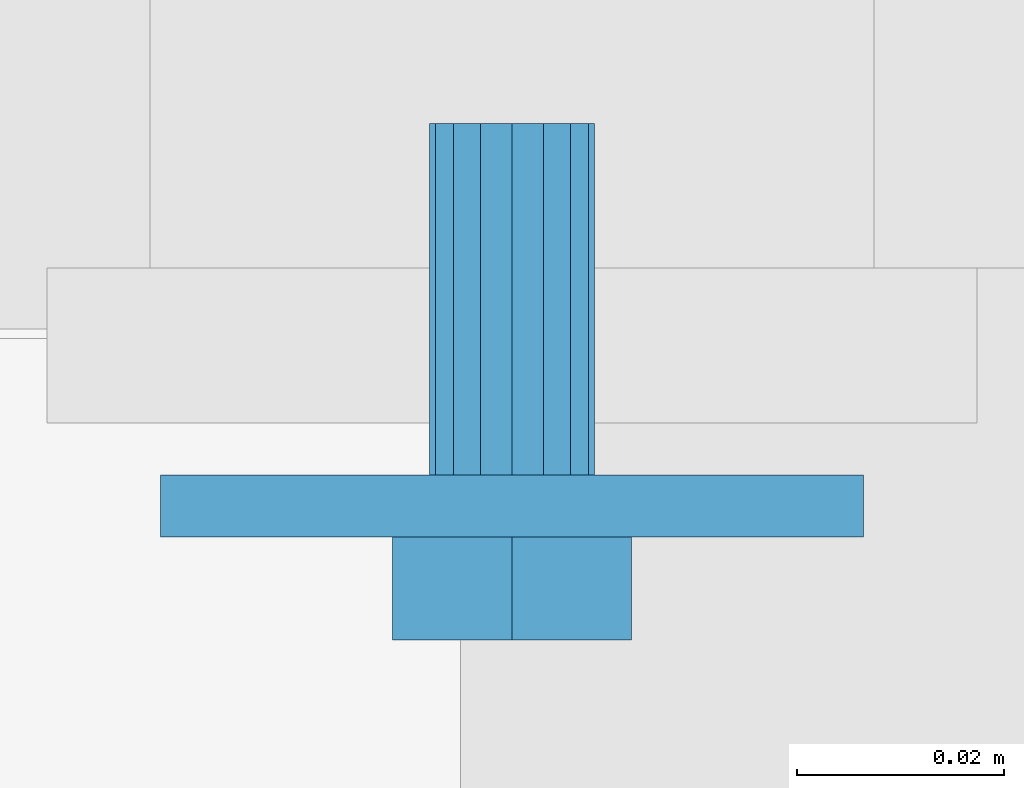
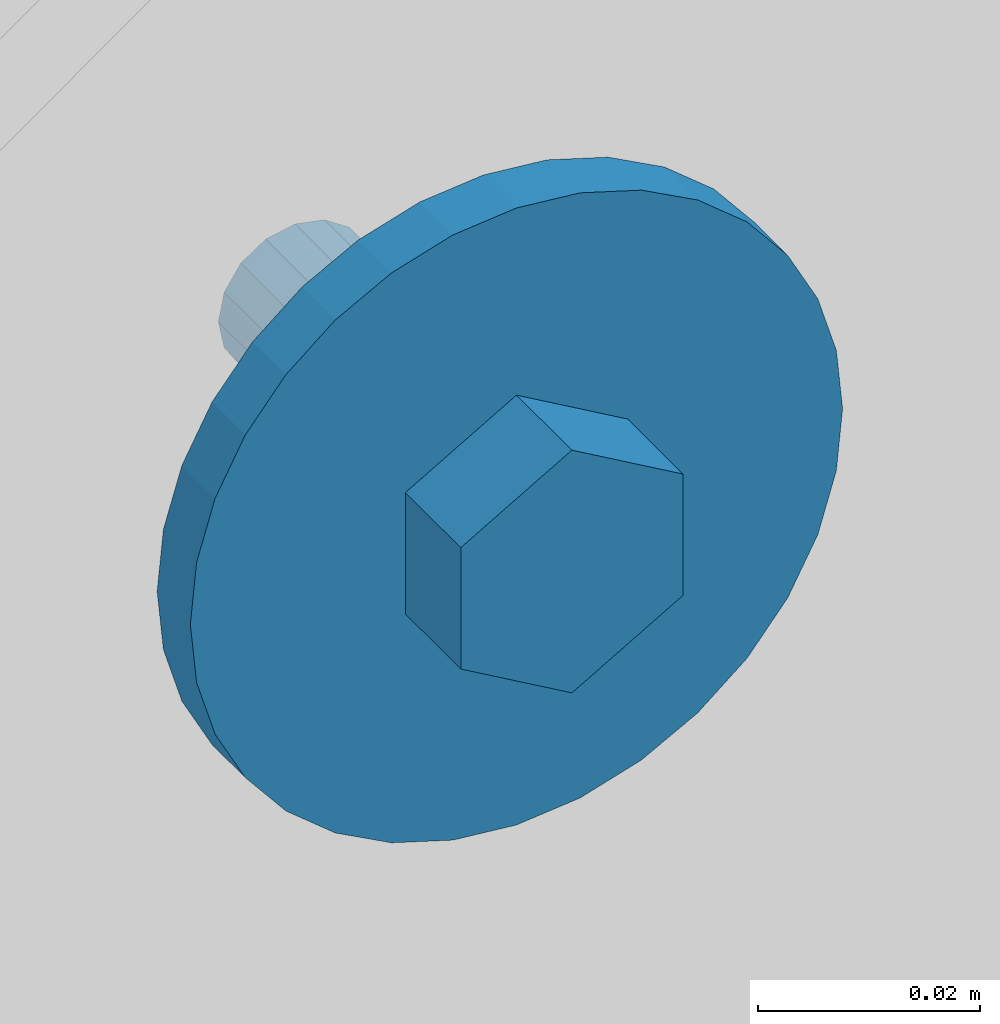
# One storey, part 31 of 116: 1 mechanical fastener.
"""IFC2X3 building model written with IfcOpenShell, lengths in millimetres."""

import ifcopenshell
import ifcopenshell.guid

model = None  # the IFC model being written
_history = None  # IfcOwnerHistory: only IFC2X3 demands one
_inside = {}  # id of a spatial element -> (the spatial element, [elements in it])
_under = {}  # id of a project, library or spatial element -> (it, [spatial elements below it])
_declared = {}  # id of a project -> (the project, [libraries it declares])
_typed = {}  # id of a type object -> (the type object, [elements of that type])
_made_of = {}  # id of a material, layer set ... -> (it, [elements and type objects made of it])


def new_model(schema):
    """Start an empty IFC model of exactly this schema.

    Asked for "IFC4X3", IfcOpenShell would pick the latest addendum, in which some entities
    have other attributes; the version numbers below select the first issue.
    IFC2X3 requires an IfcOwnerHistory on every rooted entity: one is made here for all.
    """
    global model, _history
    if schema == "IFC4X3":
        model = ifcopenshell.file(schema_version=(4, 3, 0, 0))
    else:
        model = ifcopenshell.file(schema=schema)
    _inside.clear()
    _under.clear()
    _declared.clear()
    _typed.clear()
    _made_of.clear()
    _history = None
    if model.schema == "IFC2X3":
        org = make("IfcOrganization", Name="unknown")
        user = make(
            "IfcPersonAndOrganization",
            ThePerson=make("IfcPerson", FamilyName="unknown"),
            TheOrganization=org,
        )
        app = make(
            "IfcApplication",
            ApplicationDeveloper=org,
            Version="unknown",
            ApplicationFullName="unknown",
            ApplicationIdentifier="unknown",
        )
        _history = make(
            "IfcOwnerHistory",
            OwningUser=user,
            OwningApplication=app,
            ChangeAction="ADDED",
            CreationDate=0,
        )
    return model


def make(cls, **values):
    """One entity of the class cls with the attributes given. An attribute that is None is left unset."""
    return model.create_entity(
        cls, **{name: value for name, value in values.items() if value is not None}
    )


def entity(cls, *values):
    """Any entity or typed value of the class cls, its attributes in the order of the schema. None: left unset."""
    e = model.create_entity(cls)
    for i, value in enumerate(values):
        if value is not None:
            e[i] = value
    return e


def rooted(cls, **values):
    """An entity with a GlobalId (a new one), such as an element, a storey or a relation."""
    return make(cls, GlobalId=ifcopenshell.guid.new(), OwnerHistory=_history, **values)


def si_unit(unit_type, name, prefix=None):
    """IfcSIUnit, for example si_unit("LENGTHUNIT", "METRE", prefix="MILLI")."""
    return make("IfcSIUnit", UnitType=unit_type, Prefix=prefix, Name=name)


def converted_unit(unit_type, name, factor, base, dimensions=None, offset=None):
    """IfcConversionBasedUnit, such as the inch: factor (a typed value) times the base unit."""
    return make(
        "IfcConversionBasedUnit"
        if offset is None
        else "IfcConversionBasedUnitWithOffset",
        ConversionOffset=offset,
        Dimensions=None
        if dimensions is None
        else entity("IfcDimensionalExponents", *dimensions),
        UnitType=unit_type,
        Name=name,
        ConversionFactor=make(
            "IfcMeasureWithUnit", ValueComponent=factor, UnitComponent=base
        ),
    )


def assignment(units):
    """IfcUnitAssignment: the units of a project."""
    return None if units is None else make("IfcUnitAssignment", Units=units)


def point(xyz):
    """IfcCartesianPoint."""
    return None if xyz is None else make("IfcCartesianPoint", Coordinates=xyz)


def direction(xyz):
    """IfcDirection."""
    return None if xyz is None else make("IfcDirection", DirectionRatios=xyz)


def frame(location, z_axis=None, x_axis=None):
    """IfcAxis2Placement3D, a coordinate frame: its origin and axes. An axis left out is left unset."""
    return make(
        "IfcAxis2Placement3D",
        Location=point(location),
        Axis=direction(z_axis),
        RefDirection=direction(x_axis),
    )


def origin_with_axes():
    """The frame at (0, 0, 0) with the z axis (0, 0, 1) and the x axis (1, 0, 0) written out."""
    return frame((0.0, 0.0, 0.0), z_axis=(0.0, 0.0, 1.0), x_axis=(1.0, 0.0, 0.0))


def place(relative_to, where):
    """IfcLocalPlacement: puts the frame where relative to a parent placement (None: the world)."""
    return make(
        "IfcLocalPlacement", PlacementRelTo=relative_to, RelativePlacement=where
    )


def context(
    kind, dimensions, precision=None, world=None, true_north=None, identifier=None
):
    """IfcGeometricRepresentationContext, for example the 3D "Model" context."""
    return make(
        "IfcGeometricRepresentationContext",
        ContextIdentifier=identifier,
        ContextType=kind,
        CoordinateSpaceDimension=dimensions,
        Precision=precision,
        WorldCoordinateSystem=world,
        TrueNorth=true_north,
    )


def project(units=None, contexts=None):
    """IfcProject with its units and contexts."""
    return rooted(
        "IfcProject",
        Name="project",
        RepresentationContexts=contexts,
        UnitsInContext=assignment(units),
    )


def spatial(cls, under=None, at=None, **own):
    """A site, building, storey or space (cls), placed at a placement, below another one or the project."""
    s = rooted(cls, ObjectPlacement=at, **own)
    if under is not None:
        _under.setdefault(under.id(), (under, []))[1].append(s)
    return s


def faces_of(points, faces, orient=None, outer=None):
    """IfcFace entities. A face is a list of loops; a loop is a list of indices into points, from 0.

    orient and outer hold one flag for each loop. By default every Orientation is true, the
    first loop of a face is its IfcFaceOuterBound and the others are IfcFaceBound.
    """
    made = []
    for i, loops in enumerate(faces):
        bounds = []
        for j, loop in enumerate(loops):
            is_outer = j == 0 if outer is None else outer[i][j]
            bounds.append(
                make(
                    "IfcFaceOuterBound" if is_outer else "IfcFaceBound",
                    Bound=make("IfcPolyLoop", Polygon=[points[k] for k in loop]),
                    Orientation=True if orient is None else orient[i][j],
                )
            )
        made.append(make("IfcFace", Bounds=bounds))
    return made


def faceted_brep(points, faces, orient=None, outer=None, voids=None):
    """IfcFacetedBrep: a solid bounded by flat faces; with voids (closed shells), ...WithVoids."""
    shared = [point(p) for p in points]
    hull = make("IfcClosedShell", CfsFaces=faces_of(shared, faces, orient, outer))
    if voids is None:
        return make("IfcFacetedBrep", Outer=hull)
    return make(
        "IfcFacetedBrepWithVoids",
        Outer=hull,
        Voids=[
            make(cls, CfsFaces=faces_of(shared, fs, o, b)) for cls, fs, o, b in voids
        ],
    )


def shape(context_of_items, identifier, shape_type, items):
    """IfcShapeRepresentation: the items that make up one representation, for example the "Body"."""
    return make(
        "IfcShapeRepresentation",
        ContextOfItems=context_of_items,
        RepresentationIdentifier=identifier,
        RepresentationType=shape_type,
        Items=items,
    )


def made_of(thing, what):
    """Note that an element or type object is made of a material, layer set ...; save() writes the relation."""
    if what is not None:
        _made_of.setdefault(what.id(), (what, []))[1].append(thing)
    return thing


def element(
    cls,
    number,
    at=None,
    inside=None,
    cuts=None,
    type_object=None,
    material=None,
    context=None,
    identifier="Body",
    shape_type=None,
    held_by="IfcProductDefinitionShape",
    body=None,
    shapes=None,
    **own,
):
    """One element of the class cls, such as IfcWall. Its Tag is "e" and its number.

    at: its placement. inside: the storey or other place that contains it. cuts: it is an
    opening in that element (IfcRelVoidsElement). A single representation is given by context,
    identifier, shape_type and body (its items); several are given by shapes. held_by: the class
    of the entity that holds the representations. save() writes the other relations.
    """
    e = rooted(cls, Tag="e%d" % number, ObjectPlacement=at, **own)
    if body is not None:
        shapes = [shape(context, identifier, shape_type, body)]
    if shapes is not None:
        e.Representation = make(held_by, Representations=shapes)
    if inside is not None:
        _inside.setdefault(inside.id(), (inside, []))[1].append(e)
    if cuts is not None:
        rooted(
            "IfcRelVoidsElement", RelatingBuildingElement=cuts, RelatedOpeningElement=e
        )
    if type_object is not None:
        _typed.setdefault(type_object.id(), (type_object, []))[1].append(e)
    return made_of(e, material)


def aggregate(whole, parts):
    """IfcRelAggregates: a whole, such as a stair, and the parts it consists of."""
    return rooted("IfcRelAggregates", RelatingObject=whole, RelatedObjects=parts)


def save(model, path):
    """Write the relations noted so far, then the file.

    IfcRelAggregates (storeys below a building ...), IfcRelContainedInSpatialStructure (elements
    in a storey), IfcRelDefinesByType, IfcRelAssociatesMaterial and IfcRelDeclares: one each for
    every whole, place, type object, material and project.
    """
    for whole, parts in _under.values():
        aggregate(whole, parts)
    for where, things in _inside.values():
        rooted(
            "IfcRelContainedInSpatialStructure",
            RelatedElements=things,
            RelatingStructure=where,
        )
    for kind, things in _typed.values():
        rooted("IfcRelDefinesByType", RelatedObjects=things, RelatingType=kind)
    for what, things in _made_of.values():
        rooted("IfcRelAssociatesMaterial", RelatedObjects=things, RelatingMaterial=what)
    for by, libraries in _declared.values():
        rooted("IfcRelDeclares", RelatingContext=by, RelatedDefinitions=libraries)
    model.write(path)


model = new_model("IFC2X3")

# Units and contexts
model_context = context("Model", 3, precision=1e-09, world=origin_with_axes())
ifc_project = project(units=[si_unit("LENGTHUNIT", "METRE", prefix="MILLI"), si_unit("AREAUNIT", "SQUARE_METRE"), si_unit("VOLUMEUNIT", "CUBIC_METRE"), converted_unit("PLANEANGLEUNIT", "DEGREE", entity("IfcPlaneAngleMeasure", 0.01745329), si_unit("PLANEANGLEUNIT", "RADIAN"), dimensions=[0, 0, 0, 0, 0, 0, 0])], contexts=[model_context])

# Site, building, storey
site_placement = place(None, origin_with_axes())
site = spatial("IfcSite", under=ifc_project, at=site_placement, Name="Site", CompositionType="ELEMENT")
building_placement = place(site_placement, origin_with_axes())
building = spatial("IfcBuilding", under=site, at=building_placement, Name="Struktur 1", CompositionType="ELEMENT")
storey_placement = place(building_placement, origin_with_axes())
storey = spatial("IfcBuildingStorey", under=building, at=storey_placement, Name="Default Storey", CompositionType="ELEMENT", Elevation=0.0)

# Mechanical fastener
mechanical_fastener_placement = place(None, origin_with_axes())
element("IfcMechanicalFastener", 1, at=mechanical_fastener_placement, inside=storey, ObjectType="-", NominalDiameter=16.0, NominalLength=40.0, context=model_context, shape_type="Brep", body=[
    faceted_brep([(58013.049134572, 12011.358883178, -115.0), (58013.049134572, 12017.358883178, -115.0), (58013.702435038, 12017.358883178, -121.633070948), (58013.702435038, 12011.358883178, -121.633070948), (58015.637230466, 12017.358883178, -128.0112367), (58015.637230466, 12011.358883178, -128.0112367), (58018.779167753, 12017.358883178, -133.889387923), (58018.779167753, 12011.358883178, -133.889387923), (58023.007504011, 12017.358883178, -139.04163056), (58023.007504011, 12011.358883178, -139.04163056), (58028.159746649, 12017.358883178, -143.269966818), (58028.159746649, 12011.358883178, -143.269966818), (58034.037897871, 12017.358883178, -146.411904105), (58034.037897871, 12011.358883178, -146.411904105), (58040.416063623, 12017.358883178, -148.346699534), (58040.416063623, 12011.358883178, -148.346699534), (58047.049134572, 12017.358883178, -149.0), (58047.049134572, 12011.358883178, -149.0), (58053.68220552, 12017.358883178, -148.346699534), (58053.68220552, 12011.358883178, -148.346699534), (58060.060371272, 12017.358883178, -146.411904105), (58060.060371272, 12011.358883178, -146.411904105), (58065.938522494, 12017.358883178, -143.269966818), (58065.938522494, 12011.358883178, -143.269966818), (58071.090765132, 12017.358883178, -139.04163056), (58071.090765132, 12011.358883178, -139.04163056), (58075.31910139, 12017.358883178, -133.889387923), (58075.31910139, 12011.358883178, -133.889387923), (58078.461038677, 12017.358883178, -128.0112367), (58078.461038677, 12011.358883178, -128.0112367), (58080.395834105, 12017.358883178, -121.633070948), (58080.395834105, 12011.358883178, -121.633070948), (58081.049134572, 12017.358883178, -115.0), (58081.049134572, 12011.358883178, -115.0), (58080.395834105, 12017.358883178, -108.366929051), (58080.395834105, 12011.358883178, -108.366929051), (58078.461038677, 12017.358883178, -101.9887633), (58078.461038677, 12011.358883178, -101.9887633), (58075.31910139, 12017.358883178, -96.110612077), (58075.31910139, 12011.358883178, -96.110612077), (58071.090765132, 12017.358883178, -90.95836944), (58071.090765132, 12011.358883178, -90.95836944), (58065.938522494, 12017.358883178, -86.730033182), (58065.938522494, 12011.358883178, -86.730033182), (58060.060371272, 12017.358883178, -83.588095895), (58060.060371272, 12011.358883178, -83.588095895), (58053.68220552, 12017.358883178, -81.653300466), (58053.68220552, 12011.358883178, -81.653300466), (58047.049134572, 12017.358883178, -81.0), (58047.049134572, 12011.358883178, -81.0), (58040.416063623, 12017.358883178, -81.653300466), (58040.416063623, 12011.358883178, -81.653300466), (58034.037897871, 12017.358883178, -83.588095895), (58034.037897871, 12011.358883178, -83.588095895), (58028.159746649, 12017.358883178, -86.730033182), (58028.159746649, 12011.358883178, -86.730033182), (58023.007504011, 12017.358883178, -90.95836944), (58023.007504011, 12011.358883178, -90.95836944), (58018.779167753, 12017.358883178, -96.110612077), (58018.779167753, 12011.358883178, -96.110612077), (58015.637230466, 12017.358883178, -101.9887633), (58015.637230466, 12011.358883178, -101.9887633), (58013.702435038, 12017.358883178, -108.366929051), (58013.702435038, 12011.358883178, -108.366929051)], [[[0, 1, 2, 3]], [[3, 2, 4, 5]], [[5, 4, 6, 7]], [[7, 6, 8, 9]], [[9, 8, 10, 11]], [[11, 10, 12, 13]], [[13, 12, 14, 15]], [[15, 14, 16, 17]], [[17, 16, 18, 19]], [[19, 18, 20, 21]], [[21, 20, 22, 23]], [[23, 22, 24, 25]], [[25, 24, 26, 27]], [[27, 26, 28, 29]], [[29, 28, 30, 31]], [[31, 30, 32, 33]], [[33, 32, 34, 35]], [[35, 34, 36, 37]], [[37, 36, 38, 39]], [[39, 38, 40, 41]], [[41, 40, 42, 43]], [[43, 42, 44, 45]], [[45, 44, 46, 47]], [[47, 46, 48, 49]], [[49, 48, 50, 51]], [[51, 50, 52, 53]], [[53, 52, 54, 55]], [[55, 54, 56, 57]], [[57, 56, 58, 59]], [[59, 58, 60, 61]], [[61, 60, 62, 63]], [[63, 62, 1, 0]], [[0, 3, 5, 7, 9, 11, 13, 15, 17, 19, 21, 23, 25, 27, 29, 31, 33, 35, 37, 39, 41, 43, 45, 47, 49, 51, 53, 55, 57, 59, 61, 63]], [[1, 62, 60, 58, 56, 54, 52, 50, 48, 46, 44, 42, 40, 38, 36, 34, 32, 30, 28, 26, 24, 22, 20, 18, 16, 14, 12, 10, 8, 6, 4, 2]]]),
    faceted_brep([(58058.632224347, 12011.358883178, -121.6875), (58058.632224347, 12001.358883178, -121.6875), (58047.049134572, 12001.358883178, -128.375), (58047.049134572, 12011.358883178, -128.375), (58035.466044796, 12001.358883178, -121.6875), (58035.466044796, 12011.358883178, -121.6875), (58035.466044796, 12001.358883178, -108.3125), (58035.466044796, 12011.358883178, -108.3125), (58047.049134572, 12001.358883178, -101.625), (58047.049134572, 12011.358883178, -101.625), (58058.632224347, 12001.358883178, -108.3125), (58058.632224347, 12011.358883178, -108.3125)], [[[0, 1, 2, 3]], [[3, 2, 4, 5]], [[5, 4, 6, 7]], [[7, 6, 8, 9]], [[9, 8, 10, 11]], [[11, 10, 1, 0]], [[4, 2, 1, 10, 8, 6]], [[0, 3, 5, 7, 9, 11]]]),
    faceted_brep([(58039.049134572, 12017.358883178, -115.0), (58039.049134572, 12037.357883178, -115.0), (58039.658098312, 12037.357883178, -118.061467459), (58039.658098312, 12017.358883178, -118.061467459), (58041.392280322, 12037.357883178, -120.656854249), (58041.392280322, 12017.358883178, -120.656854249), (58043.987667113, 12037.357883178, -122.39103626), (58043.987667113, 12017.358883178, -122.39103626), (58047.049134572, 12037.357883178, -123.0), (58047.049134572, 12017.358883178, -123.0), (58050.110602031, 12037.357883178, -122.39103626), (58050.110602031, 12017.358883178, -122.39103626), (58052.705988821, 12037.357883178, -120.656854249), (58052.705988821, 12017.358883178, -120.656854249), (58054.440170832, 12037.357883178, -118.061467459), (58054.440170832, 12017.358883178, -118.061467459), (58055.049134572, 12037.357883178, -115.0), (58055.049134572, 12017.358883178, -115.0), (58054.440170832, 12037.357883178, -111.938532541), (58054.440170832, 12017.358883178, -111.938532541), (58052.705988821, 12037.357883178, -109.34314575), (58052.705988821, 12017.358883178, -109.34314575), (58050.110602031, 12037.357883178, -107.60896374), (58050.110602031, 12017.358883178, -107.60896374), (58047.049134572, 12037.357883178, -107.0), (58047.049134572, 12017.358883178, -107.0), (58043.987667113, 12037.357883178, -107.60896374), (58043.987667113, 12017.358883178, -107.60896374), (58041.392280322, 12037.357883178, -109.34314575), (58041.392280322, 12017.358883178, -109.34314575), (58039.658098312, 12037.357883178, -111.938532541), (58039.658098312, 12017.358883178, -111.938532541)], [[[0, 1, 2, 3]], [[3, 2, 4, 5]], [[5, 4, 6, 7]], [[7, 6, 8, 9]], [[9, 8, 10, 11]], [[11, 10, 12, 13]], [[13, 12, 14, 15]], [[15, 14, 16, 17]], [[17, 16, 18, 19]], [[19, 18, 20, 21]], [[21, 20, 22, 23]], [[23, 22, 24, 25]], [[25, 24, 26, 27]], [[27, 26, 28, 29]], [[29, 28, 30, 31]], [[31, 30, 1, 0]], [[0, 3, 5, 7, 9, 11, 13, 15, 17, 19, 21, 23, 25, 27, 29, 31]], [[1, 30, 28, 26, 24, 22, 20, 18, 16, 14, 12, 10, 8, 6, 4, 2]]]),
    faceted_brep([(58039.049134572, 12037.357883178, -115.0), (58039.049134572, 12051.358883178, -115.0), (58039.658098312, 12051.358883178, -118.061467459), (58039.658098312, 12037.357883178, -118.061467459), (58041.392280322, 12051.358883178, -120.656854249), (58041.392280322, 12037.357883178, -120.656854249), (58043.987667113, 12051.358883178, -122.39103626), (58043.987667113, 12037.357883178, -122.39103626), (58047.049134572, 12051.358883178, -123.0), (58047.049134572, 12037.357883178, -123.0), (58050.110602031, 12051.358883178, -122.39103626), (58050.110602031, 12037.357883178, -122.39103626), (58052.705988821, 12051.358883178, -120.656854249), (58052.705988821, 12037.357883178, -120.656854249), (58054.440170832, 12051.358883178, -118.061467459), (58054.440170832, 12037.357883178, -118.061467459), (58055.049134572, 12051.358883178, -115.0), (58055.049134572, 12037.357883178, -115.0), (58054.440170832, 12051.358883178, -111.938532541), (58054.440170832, 12037.357883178, -111.938532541), (58052.705988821, 12051.358883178, -109.34314575), (58052.705988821, 12037.357883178, -109.34314575), (58050.110602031, 12051.358883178, -107.60896374), (58050.110602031, 12037.357883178, -107.60896374), (58047.049134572, 12051.358883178, -107.0), (58047.049134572, 12037.357883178, -107.0), (58043.987667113, 12051.358883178, -107.60896374), (58043.987667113, 12037.357883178, -107.60896374), (58041.392280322, 12051.358883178, -109.34314575), (58041.392280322, 12037.357883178, -109.34314575), (58039.658098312, 12051.358883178, -111.938532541), (58039.658098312, 12037.357883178, -111.938532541)], [[[0, 1, 2, 3]], [[3, 2, 4, 5]], [[5, 4, 6, 7]], [[7, 6, 8, 9]], [[9, 8, 10, 11]], [[11, 10, 12, 13]], [[13, 12, 14, 15]], [[15, 14, 16, 17]], [[17, 16, 18, 19]], [[19, 18, 20, 21]], [[21, 20, 22, 23]], [[23, 22, 24, 25]], [[25, 24, 26, 27]], [[27, 26, 28, 29]], [[29, 28, 30, 31]], [[31, 30, 1, 0]], [[0, 3, 5, 7, 9, 11, 13, 15, 17, 19, 21, 23, 25, 27, 29, 31]], [[1, 30, 28, 26, 24, 22, 20, 18, 16, 14, 12, 10, 8, 6, 4, 2]]]),
])

save(model, "model.ifc")
